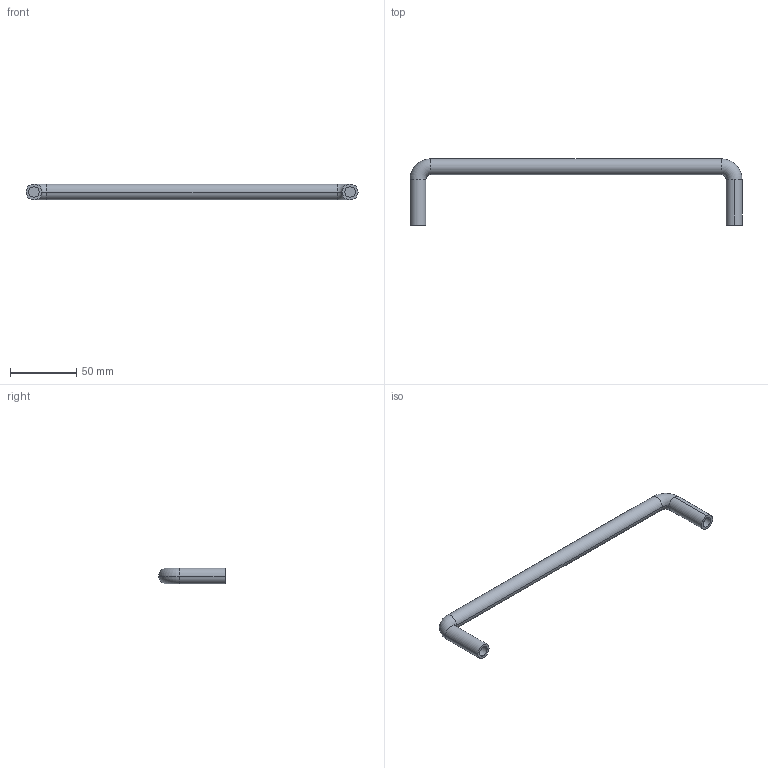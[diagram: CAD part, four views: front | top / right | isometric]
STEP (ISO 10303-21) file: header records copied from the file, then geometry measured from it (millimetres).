
FILE_DESCRIPTION (( 'STEP AP214' ), '1' );
FILE_NAME ('A84 KA-1251-13.STEP', '2012-02-22T02:00:58', ( '' ), ( '' ), 'SwSTEP 2.0', 'SolidWorks 2012', '' );
FILE_SCHEMA (( 'AUTOMOTIVE_DESIGN' ));
Length unit declared in the file: millimetre
Products named in the file (1): A84 KA-1251-13
Bounding box: 250 x 50 x 12 mm (x, y, z)
Volume: 34942.1 mm3; surface area: 12711.3 mm2
Topology: 1 solids, 1 shells, 18 faces, 36 edges, 22 vertices
Faces by surface type: cylinder 10, torus 4, plane 4
Entity records: 512 total; most frequent: DIRECTION 100, CARTESIAN_POINT 77, ORIENTED_EDGE 72, AXIS2_PLACEMENT_3D 45, EDGE_CURVE 36, CIRCLE 26, VERTEX_POINT 22, EDGE_LOOP 20
